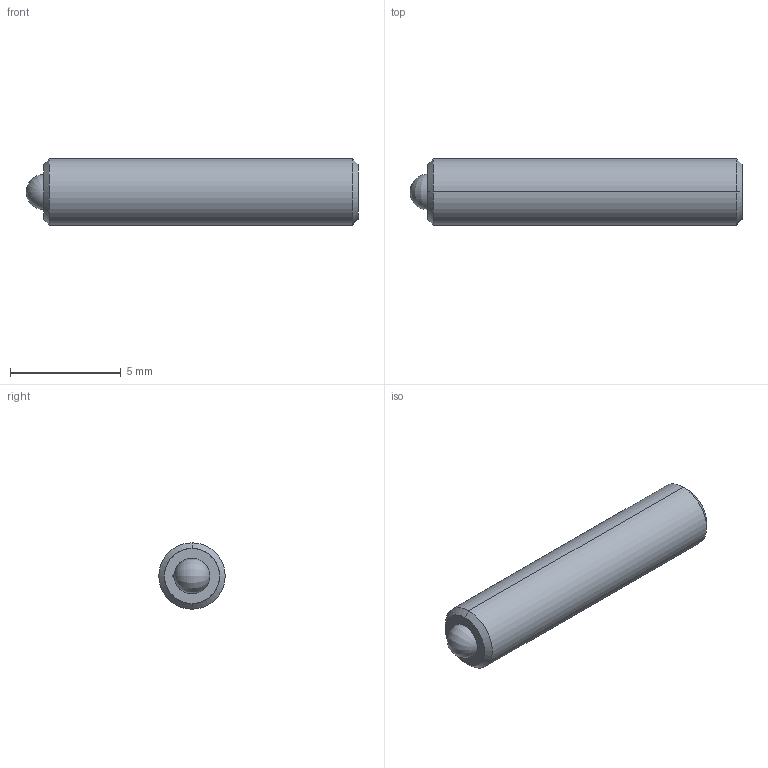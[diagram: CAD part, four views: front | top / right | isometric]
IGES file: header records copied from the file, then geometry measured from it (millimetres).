
Start section: SolidWorks IGES file using analytic representation for surfaces
Global section: file name: C:\Users\workpc\Desktop\KMA Solidworks\TS3-20 Series\TS3-20 High Vacuum\TS3-20 High Vacuum 3D Models\TS3-20-15-HV.IGS; native system: SolidWorks 2013; preprocessor: SolidWorks 2013; author: workpc; date: 130510.121447; units: millimetre
Bounding box: 15 x 3 x 3 mm (x, y, z)
Surface area: 167.5 mm2 (no closed solid volume)
Topology: 0 solids, 0 shells, 24 faces, 208 edges, 204 vertices
Faces by surface type: revolution 14, bspline 10
